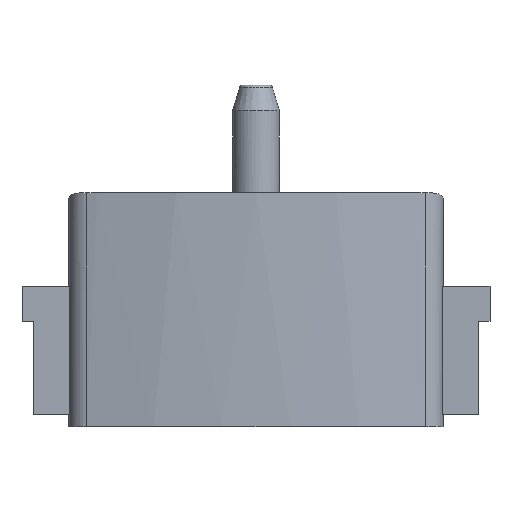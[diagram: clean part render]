
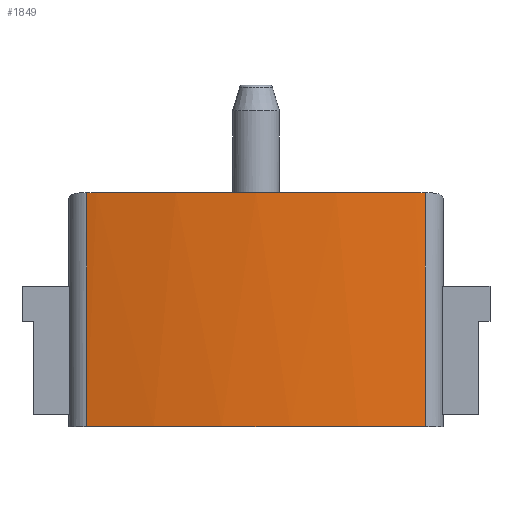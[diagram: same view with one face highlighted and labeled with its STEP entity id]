
A CAD part, front view. The second image highlights one B-rep face of the part: STEP entity #1849.
In plain terms, the highlighted cylindrical face has radius 61.5 mm (diameter 123 mm), a partial arc.
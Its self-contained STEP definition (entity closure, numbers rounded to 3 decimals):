
#7 = EDGE_CURVE ( 'NONE', #753, #309, #457, .T. ) ;
#28 = ORIENTED_EDGE ( 'NONE', *, *, #1578, .T. ) ;
#70 = B_SPLINE_CURVE_WITH_KNOTS ( 'NONE', 3,
 ( #1842, #1690, #301, #1510 ),
 .UNSPECIFIED., .F., .F.,
 ( 4, 4 ),
 ( 0., 0.001 ),
 .UNSPECIFIED. ) ;
#72 = CARTESIAN_POINT ( 'NONE',  ( 13.906, -59.908, 20. ) ) ;
#139 = VERTEX_POINT ( 'NONE', #1682 ) ;
#250 = VECTOR ( 'NONE', #2135, 1000. ) ;
#284 = B_SPLINE_CURVE_WITH_KNOTS ( 'NONE', 3,
 ( #1739, #2099, #72, #1445 ),
 .UNSPECIFIED., .F., .F.,
 ( 4, 4 ),
 ( 0.002, 0.002 ),
 .UNSPECIFIED. ) ;
#301 = CARTESIAN_POINT ( 'NONE',  ( -14.189, -59.842, 19.998 ) ) ;
#309 = VERTEX_POINT ( 'NONE', #953 ) ;
#321 = AXIS2_PLACEMENT_3D ( 'NONE', #1197, #1883, #343 ) ;
#343 = DIRECTION ( 'NONE',  ( 1., 0., 0. ) ) ;
#371 = CARTESIAN_POINT ( 'NONE',  ( 14.471, -59.773, 0. ) ) ;
#418 = AXIS2_PLACEMENT_3D ( 'NONE', #1880, #1192, #1028 ) ;
#457 = LINE ( 'NONE', #1828, #761 ) ;
#467 = CARTESIAN_POINT ( 'NONE',  ( 14.471, -59.773, 19.995 ) ) ;
#482 = VERTEX_POINT ( 'NONE', #467 ) ;
#502 = EDGE_CURVE ( 'NONE', #1954, #139, #871, .T. ) ;
#579 = CARTESIAN_POINT ( 'NONE',  ( 14.471, -59.773, 20. ) ) ;
#586 = ORIENTED_EDGE ( 'NONE', *, *, #1755, .T. ) ;
#697 = EDGE_CURVE ( 'NONE', #956, #482, #1099, .T. ) ;
#753 = VERTEX_POINT ( 'NONE', #1616 ) ;
#761 = VECTOR ( 'NONE', #1609, 1000. ) ;
#871 = CIRCLE ( 'NONE', #321, 61.5 ) ;
#917 = FACE_OUTER_BOUND ( 'NONE', #1709, .T. ) ;
#953 = CARTESIAN_POINT ( 'NONE',  ( -14.471, -59.773, 0. ) ) ;
#956 = VERTEX_POINT ( 'NONE', #371 ) ;
#1028 = DIRECTION ( 'NONE',  ( 1., 0., 0. ) ) ;
#1099 = LINE ( 'NONE', #579, #250 ) ;
#1192 = DIRECTION ( 'NONE',  ( 0., 0., 1. ) ) ;
#1197 = CARTESIAN_POINT ( 'NONE',  ( 0., 0., 20. ) ) ;
#1276 = CIRCLE ( 'NONE', #418, 61.5 ) ;
#1325 = EDGE_CURVE ( 'NONE', #309, #956, #1276, .T. ) ;
#1445 = CARTESIAN_POINT ( 'NONE',  ( 13.623, -59.972, 20. ) ) ;
#1460 = ORIENTED_EDGE ( 'NONE', *, *, #502, .F. ) ;
#1510 = CARTESIAN_POINT ( 'NONE',  ( -14.471, -59.773, 19.995 ) ) ;
#1578 = EDGE_CURVE ( 'NONE', #1954, #753, #70, .T. ) ;
#1583 = CYLINDRICAL_SURFACE ( 'NONE', #2219, 61.5 ) ;
#1586 = ORIENTED_EDGE ( 'NONE', *, *, #7, .T. ) ;
#1609 = DIRECTION ( 'NONE',  ( 0., 0., -1. ) ) ;
#1616 = CARTESIAN_POINT ( 'NONE',  ( -14.471, -59.773, 19.995 ) ) ;
#1682 = CARTESIAN_POINT ( 'NONE',  ( 13.623, -59.972, 20. ) ) ;
#1690 = CARTESIAN_POINT ( 'NONE',  ( -13.906, -59.908, 20. ) ) ;
#1709 = EDGE_LOOP ( 'NONE', ( #28, #1586, #2129, #2045, #586, #1460 ) ) ;
#1739 = CARTESIAN_POINT ( 'NONE',  ( 14.471, -59.773, 19.995 ) ) ;
#1755 = EDGE_CURVE ( 'NONE', #482, #139, #284, .T. ) ;
#1775 = DIRECTION ( 'NONE',  ( -1., 0., 0. ) ) ;
#1828 = CARTESIAN_POINT ( 'NONE',  ( -14.471, -59.773, 20. ) ) ;
#1837 = CARTESIAN_POINT ( 'NONE',  ( -13.623, -59.972, 20. ) ) ;
#1842 = CARTESIAN_POINT ( 'NONE',  ( -13.623, -59.972, 20. ) ) ;
#1849 = ADVANCED_FACE ( 'NONE', ( #917 ), #1583, .T. ) ;
#1880 = CARTESIAN_POINT ( 'NONE',  ( 0., 0., 0. ) ) ;
#1883 = DIRECTION ( 'NONE',  ( 0., 0., 1. ) ) ;
#1948 = DIRECTION ( 'NONE',  ( 0., 0., -1. ) ) ;
#1954 = VERTEX_POINT ( 'NONE', #1837 ) ;
#2045 = ORIENTED_EDGE ( 'NONE', *, *, #697, .T. ) ;
#2099 = CARTESIAN_POINT ( 'NONE',  ( 14.189, -59.842, 19.998 ) ) ;
#2129 = ORIENTED_EDGE ( 'NONE', *, *, #1325, .T. ) ;
#2135 = DIRECTION ( 'NONE',  ( 0., 0., 1. ) ) ;
#2150 = CARTESIAN_POINT ( 'NONE',  ( 0., 0., 20. ) ) ;
#2219 = AXIS2_PLACEMENT_3D ( 'NONE', #2150, #1948, #1775 ) ;
